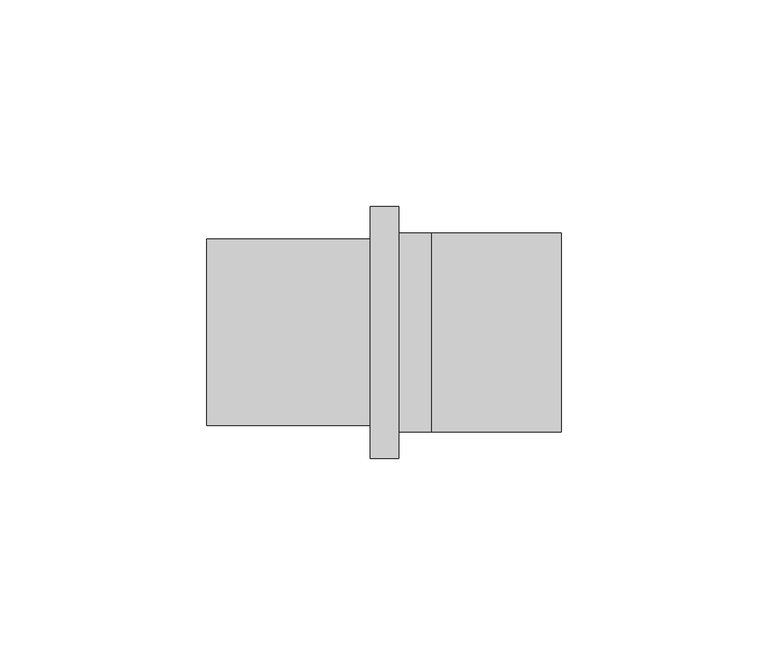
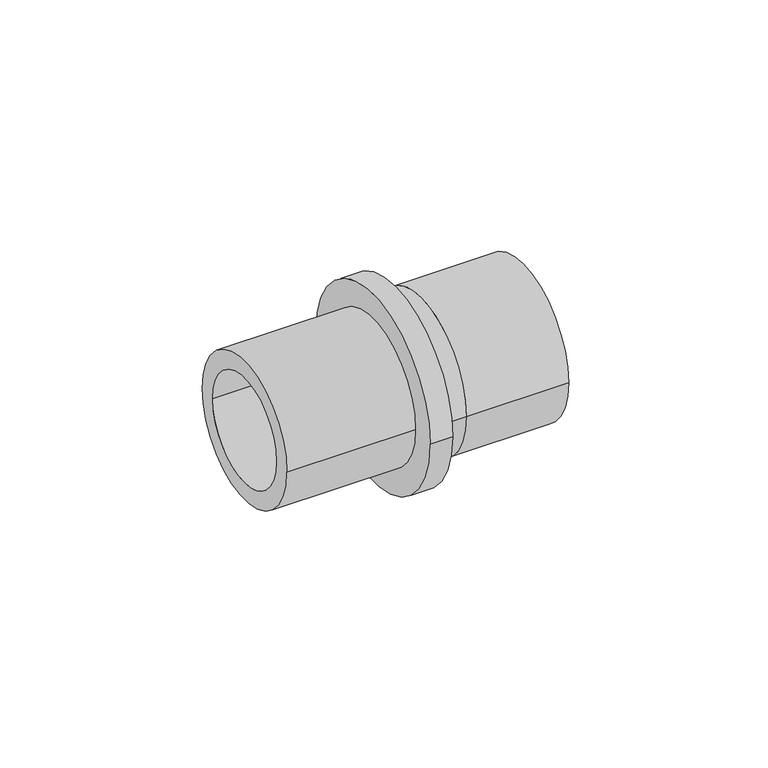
"""IFC4 building model written with IfcOpenShell, lengths in millimetres: pipe fitting geometry, Adapter with welding end : A welding LX."""

from ifc_helpers import new_model, si_unit, point, frame, origin, origin_2d, place, context, project, spatial, polyline, circle_curve, trimmed, segment, composite_curve, outline, extrude, source, transform, mapped, element, save
from ifc_brep_helpers import plane_surface, cylinder_surface, revolved_surface, advanced_brep


def pipe_fitting_8175d26d(model_context):
    return source(origin(), model_context, "Body", "SolidModel", [
        advanced_brep(
        [(0.0, 24.1, 0.0), (0.0, -24.1, 0.0), (-7.9, -24.1, 0.0), (-7.9, 24.1, 0.0), (-7.9, 21.5, 0.0), (-7.9, -21.5, 0.0), (0.0, -21.5, 0.0), (0.0, 21.5, 0.0), (-54.4, 17.0, 0.0), (-54.4, -17.0, 0.0), (-7.9, -17.0, 0.0), (-7.9, 17.0, 0.0), (-14.8, 22.6, 0.0), (-14.8, -22.6, 0.0), (-54.4, -22.6, 0.0), (-54.4, 22.6, 0.0), (-7.9, 30.5, 0.0), (-7.9, -30.5, 0.0), (-14.8, -30.5, 0.0), (-14.8, 30.5, 0.0)],
        [
            (0, 1, circle_curve(frame((0.0, 0.0, 0.0), z_axis=(-1.0, 0.0, 0.0), x_axis=(0.0, -1.0, 0.0)), 24.1)),
            (1, 2),
            (2, 3, circle_curve(frame((-7.9, 0.0, 0.0), z_axis=(1.0, 0.0, 0.0), x_axis=(0.0, -1.0, 0.0)), 24.1)),
            (3, 0),
            (4, 5, circle_curve(frame((-7.9, 0.0, 0.0), z_axis=(-1.0, 0.0, 0.0), x_axis=(0.0, -1.0, 0.0)), 21.5)),
            (5, 6),
            (6, 7, circle_curve(frame((0.0, 0.0, 0.0), z_axis=(1.0, 0.0, 0.0), x_axis=(0.0, -1.0, 0.0)), 21.5)),
            (7, 4),
            (8, 9, circle_curve(frame((-54.4, 0.0, 0.0), z_axis=(-1.0, 0.0, 0.0), x_axis=(0.0, -1.0, 0.0)), 17.0)),
            (9, 10),
            (10, 11, circle_curve(frame((-7.9, 0.0, 0.0), z_axis=(1.0, 0.0, 0.0), x_axis=(0.0, -1.0, 0.0)), 17.0)),
            (11, 8),
            (12, 13, circle_curve(frame((-14.8, 0.0, 0.0), z_axis=(-1.0, 0.0, 0.0), x_axis=(0.0, -1.0, 0.0)), 22.6)),
            (13, 14),
            (14, 15, circle_curve(frame((-54.4, 0.0, 0.0), z_axis=(1.0, 0.0, 0.0), x_axis=(0.0, -1.0, 0.0)), 22.6)),
            (15, 12),
            (16, 17, circle_curve(frame((-7.9, 0.0, 0.0), z_axis=(-1.0, 0.0, 0.0), x_axis=(0.0, -1.0, 0.0)), 30.5)),
            (17, 18),
            (18, 19, circle_curve(frame((-14.8, 0.0, 0.0), z_axis=(1.0, 0.0, 0.0), x_axis=(0.0, -1.0, 0.0)), 30.5)),
            (19, 16),
            (16, 17, circle_curve(frame((-7.9, 0.0, 0.0), z_axis=(1.0, 0.0, 0.0), x_axis=(0.0, 1.0, 0.0)), 30.5)),
            (2, 3, circle_curve(frame((-7.9, 0.0, 0.0), z_axis=(-1.0, 0.0, 0.0), x_axis=(0.0, 1.0, 0.0)), 24.1)),
            (1, 0, circle_curve(frame((0.0, 0.0, 0.0), z_axis=(-1.0, 0.0, 0.0), x_axis=(0.0, 1.0, 0.0)), 24.1)),
            (6, 7, circle_curve(frame((0.0, 0.0, 0.0), z_axis=(-1.0, 0.0, 0.0), x_axis=(0.0, 1.0, 0.0)), 21.5)),
            (5, 4, circle_curve(frame((-7.9, 0.0, 0.0), z_axis=(-1.0, 0.0, 0.0), x_axis=(0.0, 1.0, 0.0)), 21.5)),
            (10, 11, circle_curve(frame((-7.9, 0.0, 0.0), z_axis=(-1.0, 0.0, 0.0), x_axis=(0.0, 1.0, 0.0)), 17.0)),
            (9, 8, circle_curve(frame((-54.4, 0.0, 0.0), z_axis=(-1.0, 0.0, 0.0), x_axis=(0.0, 1.0, 0.0)), 17.0)),
            (14, 15, circle_curve(frame((-54.4, 0.0, 0.0), z_axis=(-1.0, 0.0, 0.0), x_axis=(0.0, 1.0, 0.0)), 22.6)),
            (13, 12, circle_curve(frame((-14.8, 0.0, 0.0), z_axis=(-1.0, 0.0, 0.0), x_axis=(0.0, 1.0, 0.0)), 22.6)),
            (18, 19, circle_curve(frame((-14.8, 0.0, 0.0), z_axis=(-1.0, 0.0, 0.0), x_axis=(0.0, 1.0, 0.0)), 30.5)),
        ],
        [
            cylinder_surface(frame((0.0, 0.0, 0.0), z_axis=(1.0, 0.0, 0.0), x_axis=(0.0, -1.0, 0.0)), 24.1),
            revolved_surface(polyline([(0.0, -21.5, 0.0), (-7.9, -21.5, 0.0)]), (0.0, 0.0, 0.0), (1.0, 0.0, 0.0)),
            revolved_surface(polyline([(-7.9, -17.0, 0.0), (-54.4, -17.0, 0.0)]), (0.0, 0.0, 0.0), (1.0, 0.0, 0.0)),
            cylinder_surface(frame((0.0, 0.0, 0.0), z_axis=(1.0, 0.0, 0.0), x_axis=(0.0, -1.0, 0.0)), 22.6),
            cylinder_surface(frame((0.0, 0.0, 0.0), z_axis=(1.0, 0.0, 0.0), x_axis=(0.0, -1.0, 0.0)), 30.5),
            plane_surface(frame((-7.9, 0.0, 0.0), z_axis=(1.0, 0.0, 0.0), x_axis=(0.0, 1.0, 0.0))),
            cylinder_surface(frame((0.0, 0.0, 0.0), z_axis=(1.0, 0.0, 0.0), x_axis=(0.0, 1.0, 0.0)), 24.1),
            plane_surface(frame((0.0, 0.0, 0.0), z_axis=(1.0, 0.0, 0.0), x_axis=(0.0, 1.0, 0.0))),
            revolved_surface(polyline([(0.0, 21.5, 0.0), (-7.9, 21.5, 0.0)]), (0.0, 0.0, 0.0), (1.0, 0.0, 0.0)),
            revolved_surface(polyline([(-7.9, 17.0, 0.0), (-54.4, 17.0, 0.0)]), (0.0, 0.0, 0.0), (1.0, 0.0, 0.0)),
            plane_surface(frame((-54.4, 0.0, 0.0), z_axis=(-1.0, 0.0, 0.0), x_axis=(0.0, 1.0, 0.0))),
            cylinder_surface(frame((0.0, 0.0, 0.0), z_axis=(1.0, 0.0, 0.0), x_axis=(0.0, 1.0, 0.0)), 22.6),
            plane_surface(frame((-14.8, 0.0, 0.0), z_axis=(-1.0, 0.0, 0.0), x_axis=(0.0, 1.0, 0.0))),
            cylinder_surface(frame((0.0, 0.0, 0.0), z_axis=(1.0, 0.0, 0.0), x_axis=(0.0, 1.0, 0.0)), 30.5),
        ],
        [
            (0, [[1, 2, 3, 4]]),
            (1, [[5, 6, 7, 8]]),
            (2, [[9, 10, 11, 12]]),
            (3, [[13, 14, 15, 16]]),
            (4, [[17, 18, 19, 20]]),
            (5, [[21, -17], [22, -3]]),
            (6, [[23, -4, -22, -2]]),
            (7, [[-23, -1], [24, -7]]),
            (8, [[25, -8, -24, -6]]),
            (5, [[-25, -5], [26, -11]]),
            (9, [[27, -12, -26, -10]]),
            (10, [[28, -15], [-27, -9]]),
            (11, [[29, -16, -28, -14]]),
            (12, [[30, -19], [-29, -13]]),
            (13, [[-21, -20, -30, -18]]),
        ],
    ),
        extrude(outline(composite_curve([segment(trimmed(circle_curve(origin_2d(), 24.1), [point((-24.1, 0.0))], [point((24.1, 0.0))], False, "CARTESIAN"), True, "CONTINUOUS"), segment(trimmed(circle_curve(origin_2d(), 24.1), [point((24.1, 0.0))], [point((-24.1, 0.0))], False, "CARTESIAN"), True, "CONTINUOUS")], self_intersect=False), holes=[composite_curve([segment(trimmed(circle_curve(origin_2d(), 21.5), [point((21.5, 0.0))], [point((-21.5, 0.0))], True, "CARTESIAN"), True, "CONTINUOUS"), segment(trimmed(circle_curve(origin_2d(), 21.5), [point((-21.5, 0.0))], [point((21.5, 0.0))], True, "CARTESIAN"), True, "CONTINUOUS")], self_intersect=False)]), frame((0.0, 0.0, 0.0), z_axis=(1.0, 0.0, 0.0), x_axis=(0.0, 1.0, 0.0)), (0.0, 0.0, 1.0), 31.5),
    ])


if __name__ == "__main__":
    model = new_model("IFC4")
    model_context = context("Model", 3, world=origin())
    ifc_project = project(units=[si_unit("LENGTHUNIT", "METRE", prefix="MILLI")], contexts=[model_context])
    site = spatial("IfcSite", under=ifc_project)
    building = spatial("IfcBuilding", under=site)
    placement = place(None, origin())
    pipe_fitting_shape = pipe_fitting_8175d26d(model_context)
    element("IfcPipeFitting", 1, ObjectType="Adapter with welding end : A welding LX", at=placement, inside=building, context=model_context, shape_type="MappedRepresentation", body=[
        mapped(pipe_fitting_shape, transform((0.0, 0.0, 0.0), x_axis=(1.0, 0.0, 0.0), y_axis=(0.0, 1.0, 0.0), z_axis=(0.0, 0.0, 1.0))),
    ])
    save(model, "model.ifc")
